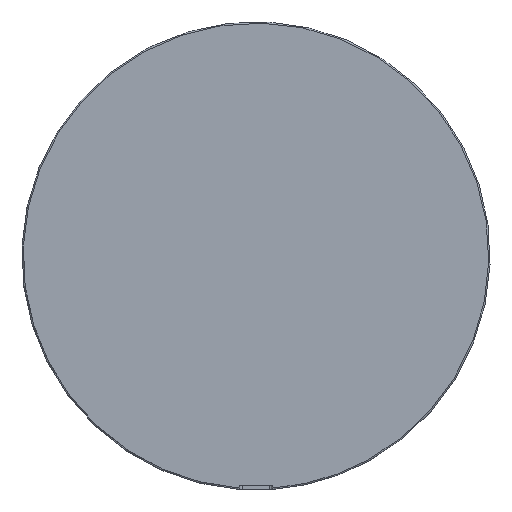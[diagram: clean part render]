
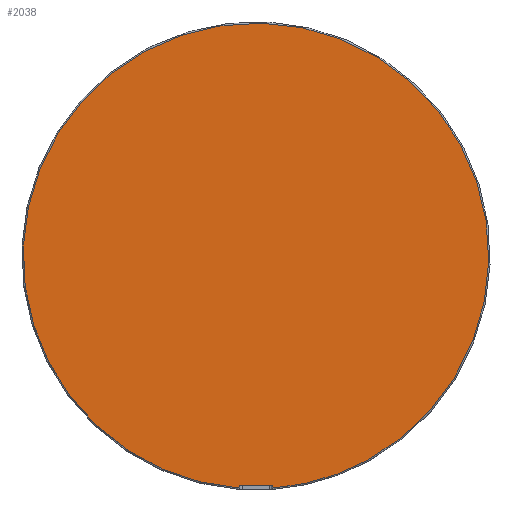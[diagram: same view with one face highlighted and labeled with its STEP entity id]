
A CAD part, left-side view. The second image highlights one B-rep face of the part: STEP entity #2038.
In plain terms, the highlighted planar face has unit normal (-1, 0, 0).
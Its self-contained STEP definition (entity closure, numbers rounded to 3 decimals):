
#526=CARTESIAN_POINT('',(-1.5,6.,-84.287));
#540=CARTESIAN_POINT('',(-1.5,0.,0.));
#541=DIRECTION('',(-1.,0.,0.));
#542=DIRECTION('',(0.,0.072,-0.997));
#543=AXIS2_PLACEMENT_3D('',#540,#541,#542);
#545=DIRECTION('',(0.,0.,1.));
#546=VECTOR('',#545,1.028);
#547=CARTESIAN_POINT('',(-1.5,6.,-84.287));
#548=LINE('',#547,#546);
#549=CARTESIAN_POINT('',(-1.5,0.,0.));
#550=DIRECTION('',(-1.,0.,0.));
#551=DIRECTION('',(0.,0.479,0.878));
#552=AXIS2_PLACEMENT_3D('',#549,#550,#551);
#554=CARTESIAN_POINT('',(-1.5,0.,0.));
#555=DIRECTION('',(1.,0.,0.));
#556=DIRECTION('',(0.,0.479,0.878));
#557=AXIS2_PLACEMENT_3D('',#554,#555,#556);
#559=CARTESIAN_POINT('',(-1.5,0.,0.));
#560=DIRECTION('',(-1.,0.,0.));
#561=DIRECTION('',(0.,-0.071,-0.997));
#562=AXIS2_PLACEMENT_3D('',#559,#560,#561);
#567=CARTESIAN_POINT('',(-1.5,-6.,-83.259));
#569=DIRECTION('',(0.,0.,1.));
#570=VECTOR('',#569,1.028);
#571=CARTESIAN_POINT('',(-1.5,-6.,-84.287));
#572=LINE('',#571,#570);
#583=CARTESIAN_POINT('',(-1.5,-6.,-84.287));
#662=CARTESIAN_POINT('',(-1.5,6.,-83.259));
#1268=VERTEX_POINT('',#583);
#1274=VERTEX_POINT('',#526);
#1276=CARTESIAN_POINT('',(-1.5,-40.512,-74.156));
#1277=VERTEX_POINT('',#1276);
#1278=CARTESIAN_POINT('',(-1.5,40.512,74.156));
#1279=VERTEX_POINT('',#1278);
#1304=VERTEX_POINT('',#567);
#1309=VERTEX_POINT('',#662);
#2020=CARTESIAN_POINT('',(-1.5,0.,83.));
#2021=DIRECTION('',(-1.,0.,0.));
#2022=DIRECTION('',(0.,1.,0.));
#2023=AXIS2_PLACEMENT_3D('',#2020,#2021,#2022);
#2024=PLANE('',#2023);
#2026=ORIENTED_EDGE('',*,*,#2025,.T.);
#2028=ORIENTED_EDGE('',*,*,#2027,.F.);
#2030=ORIENTED_EDGE('',*,*,#2029,.F.);
#2031=ORIENTED_EDGE('',*,*,#2006,.F.);
#2033=ORIENTED_EDGE('',*,*,#2032,.T.);
#2035=ORIENTED_EDGE('',*,*,#2034,.F.);
#2036=EDGE_LOOP('',(#2026,#2028,#2030,#2031,#2033,#2035));
#2037=FACE_OUTER_BOUND('',#2036,.F.);
#2038=ADVANCED_FACE('',(#2037),#2024,.T.);
#544=CIRCLE('',#543,83.474);
#553=CIRCLE('',#552,84.5);
#558=CIRCLE('',#557,84.5);
#563=CIRCLE('',#562,84.5);
#2006=EDGE_CURVE('',#1279,#1274,#553,.T.);
#2025=EDGE_CURVE('',#1268,#1304,#572,.T.);
#2027=EDGE_CURVE('',#1309,#1304,#544,.T.);
#2029=EDGE_CURVE('',#1274,#1309,#548,.T.);
#2032=EDGE_CURVE('',#1279,#1277,#558,.T.);
#2034=EDGE_CURVE('',#1268,#1277,#563,.T.);
